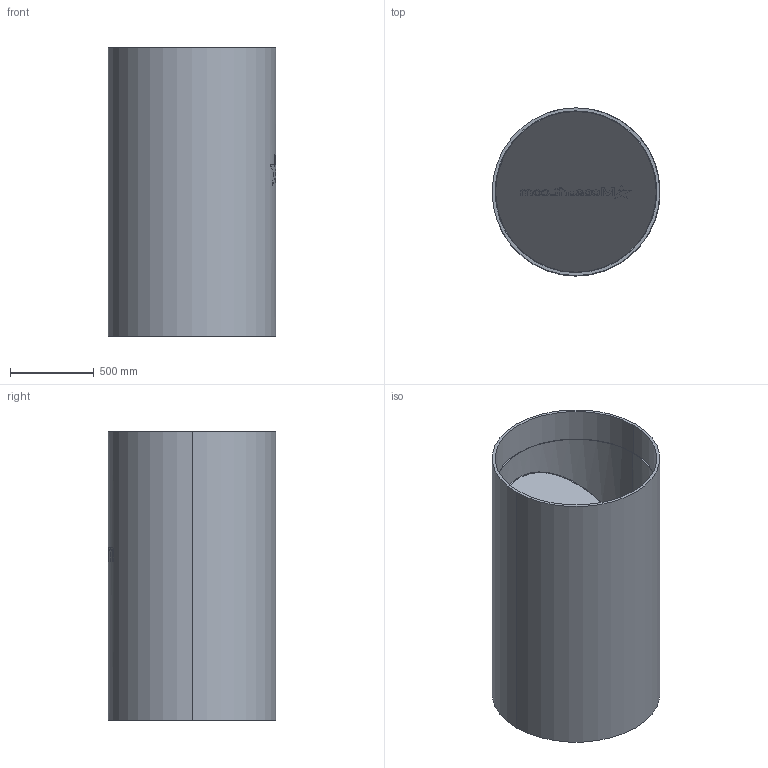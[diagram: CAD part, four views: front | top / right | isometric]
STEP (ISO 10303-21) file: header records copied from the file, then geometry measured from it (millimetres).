
FILE_DESCRIPTION (( 'STEP AP214' ), '1' );
FILE_NAME ('CF-IL-G5-S1000-NN-316-IDP.STEP', '2023-03-21T12:43:22', ( '' ), ( '' ), 'SwSTEP 2.0', 'SolidWorks 2022', '' );
FILE_SCHEMA (( 'AUTOMOTIVE_DESIGN' ));
Length unit declared in the file: millimetre
Products named in the file (3): Clamp- 1000_1050; CF-IL-G5-S1000-NN-316-IDP; CF-IL-G5-S1000-NN-316-IDP_CM-0100-B
Assembly tree (3 placements, depth 2):
  CF-IL-G5-S1000-NN-316-IDP
    CF-IL-G5-S1000-NN-316-IDP_CM-0100-B
    Clamp- 1000_1050  x2
Bounding box: 1000.5 x 1000.5 x 1720 mm (x, y, z)
Volume: 115181013.5 mm3; surface area: 13760370.2 mm2
Topology: 21 solids, 21 shells, 2579 faces, 6813 edges, 4315 vertices
Faces by surface type: plane 912, bspline 672, cone 540, cylinder 455
Entity records: 87552 total; most frequent: CARTESIAN_POINT 27398, ORIENTED_EDGE 11080, DIRECTION 6205, EDGE_CURVE 5540, VERTEX_POINT 3593, B_SPLINE_CURVE_WITH_KNOTS 2491, VECTOR 2483, LINE 2483
